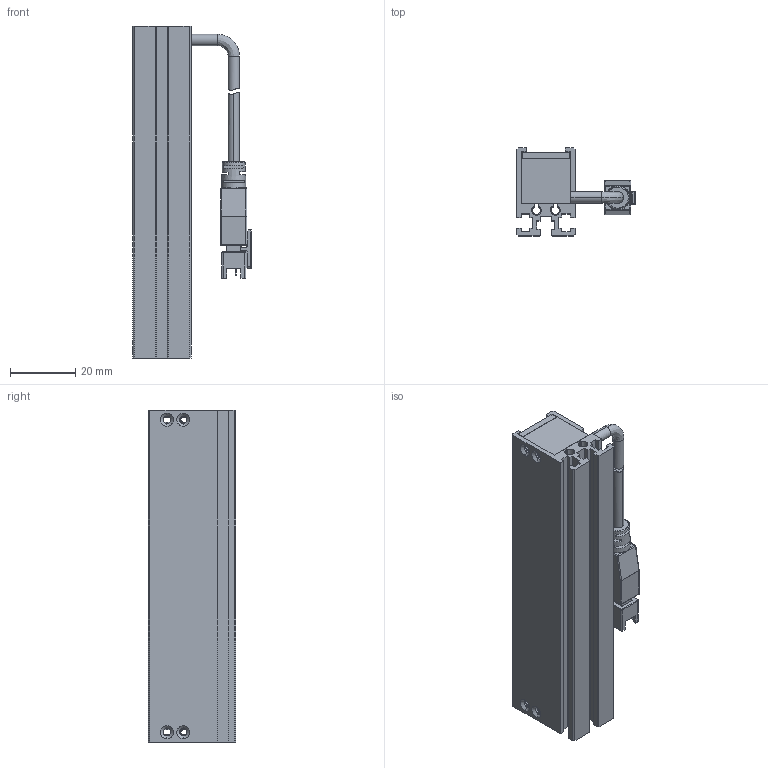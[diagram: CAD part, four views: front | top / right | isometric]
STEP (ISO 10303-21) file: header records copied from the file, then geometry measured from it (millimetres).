
FILE_DESCRIPTION (( 'STEP AP203' ), '1' );
FILE_NAME ('CST-2BS10218-¼òÒ×3DÍ¼.STEP', '2021-06-15T08:53:09', ( '' ), ( '' ), 'SwSTEP 2.0', 'SolidWorks 2018', '' );
FILE_SCHEMA (( 'CONFIG_CONTROL_DESIGN' ));
Length unit declared in the file: millimetre
Products named in the file (1): CST-2BS10218-潠眢3D芞
Bounding box: 36.55 x 27 x 102 mm (x, y, z)
Surface area: 30664.5 mm2 (no closed solid volume)
Topology: 0 solids, 8 shells, 484 faces, 1317 edges, 832 vertices
Faces by surface type: plane 243, cylinder 155, cone 52, bspline 28, torus 6
Entity records: 15818 total; most frequent: CARTESIAN_POINT 3674, ORIENTED_EDGE 2547, DIRECTION 2471, EDGE_CURVE 1297, VECTOR 853, LINE 853, VERTEX_POINT 832, AXIS2_PLACEMENT_3D 809
